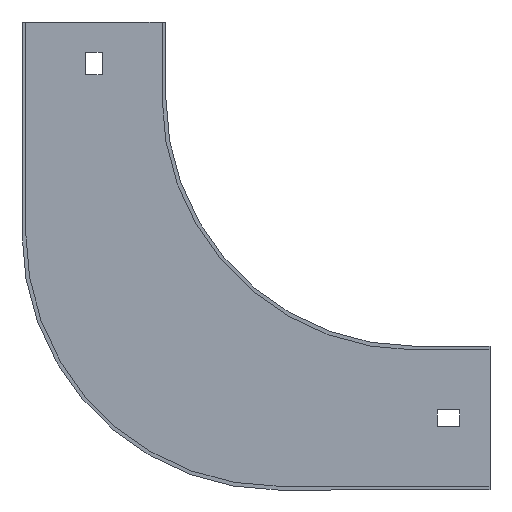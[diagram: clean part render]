
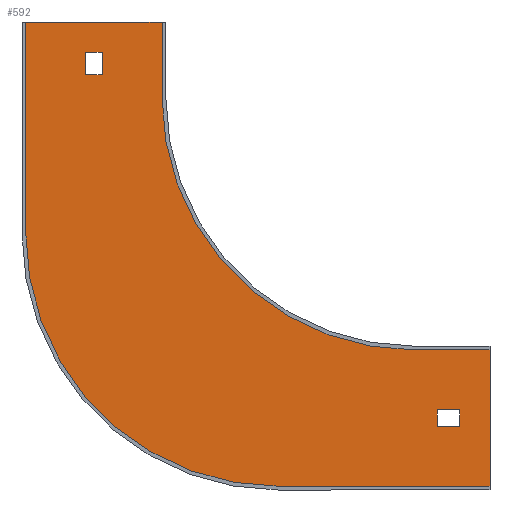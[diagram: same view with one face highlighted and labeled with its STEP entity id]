
A CAD part, front view. The second image highlights one B-rep face of the part: STEP entity #592.
In plain terms, the highlighted planar face has unit normal (0, -1, 0).
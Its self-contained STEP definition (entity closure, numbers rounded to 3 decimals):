
#12 = ORIENTED_EDGE ( 'NONE', *, *, #531, .T. ) ;
#13 = ORIENTED_EDGE ( 'NONE', *, *, #438, .F. ) ;
#22 = CARTESIAN_POINT ( 'NONE',  ( -130.25, -1.5, 9. ) ) ;
#23 = DIRECTION ( 'NONE',  ( 1., 0., 0. ) ) ;
#32 = DIRECTION ( 'NONE',  ( 0., -1., 0. ) ) ;
#38 = LINE ( 'NONE', #722, #184 ) ;
#56 = CARTESIAN_POINT ( 'NONE',  ( -123.75, -1.5, 9. ) ) ;
#59 = VECTOR ( 'NONE', #454, 1000. ) ;
#61 = CARTESIAN_POINT ( 'NONE',  ( 9., -1.5, 0. ) ) ;
#80 = DIRECTION ( 'NONE',  ( 0., -1., 0. ) ) ;
#85 = CARTESIAN_POINT ( 'NONE',  ( 9., -1.5, -130.25 ) ) ;
#88 = VECTOR ( 'NONE', #306, 1000. ) ;
#89 = ORIENTED_EDGE ( 'NONE', *, *, #471, .T. ) ;
#102 = CARTESIAN_POINT ( 'NONE',  ( 18., -1.5, 0. ) ) ;
#106 = VERTEX_POINT ( 'NONE', #243 ) ;
#130 = CARTESIAN_POINT ( 'NONE',  ( 0., -1.5, -100. ) ) ;
#139 = FACE_OUTER_BOUND ( 'NONE', #260, .T. ) ;
#147 = CARTESIAN_POINT ( 'NONE',  ( -54., -1.5, -154. ) ) ;
#149 = EDGE_CURVE ( 'NONE', #601, #652, #530, .T. ) ;
#151 = CARTESIAN_POINT ( 'NONE',  ( 0., -1.5, 0. ) ) ;
#163 = ORIENTED_EDGE ( 'NONE', *, *, #850, .F. ) ;
#169 = CARTESIAN_POINT ( 'NONE',  ( 30., -1.5, -98.5 ) ) ;
#179 = CARTESIAN_POINT ( 'NONE',  ( 9., -1.5, -123.75 ) ) ;
#183 = VERTEX_POINT ( 'NONE', #801 ) ;
#184 = VECTOR ( 'NONE', #327, 1000. ) ;
#188 = ORIENTED_EDGE ( 'NONE', *, *, #393, .F. ) ;
#191 = CIRCLE ( 'NONE', #335, 100. ) ;
#210 = LINE ( 'NONE', #600, #429 ) ;
#212 = VECTOR ( 'NONE', #23, 1000. ) ;
#222 = DIRECTION ( 'NONE',  ( 0., 0., -1. ) ) ;
#231 = VECTOR ( 'NONE', #432, 1000. ) ;
#236 = CARTESIAN_POINT ( 'NONE',  ( 0., -1.5, 9. ) ) ;
#240 = VERTEX_POINT ( 'NONE', #274 ) ;
#243 = CARTESIAN_POINT ( 'NONE',  ( 30., -1.5, -154. ) ) ;
#248 = CARTESIAN_POINT ( 'NONE',  ( -54., -1.5, -54. ) ) ;
#249 = ORIENTED_EDGE ( 'NONE', *, *, #566, .F. ) ;
#250 = CARTESIAN_POINT ( 'NONE',  ( 0., -1.5, -123.75 ) ) ;
#254 = DIRECTION ( 'NONE',  ( -1., 0., 0. ) ) ;
#260 = EDGE_LOOP ( 'NONE', ( #249, #163, #188, #511, #857, #750, #604, #400 ) ) ;
#264 = CARTESIAN_POINT ( 'NONE',  ( -123.75, -1.5, 0. ) ) ;
#267 = DIRECTION ( 'NONE',  ( 0., 0., -1. ) ) ;
#274 = CARTESIAN_POINT ( 'NONE',  ( 30., -1.5, -100. ) ) ;
#278 = CARTESIAN_POINT ( 'NONE',  ( 0., -1.5, 18. ) ) ;
#281 = DIRECTION ( 'NONE',  ( -1., 0., 0. ) ) ;
#288 = VERTEX_POINT ( 'NONE', #718 ) ;
#290 = VERTEX_POINT ( 'NONE', #558 ) ;
#294 = PLANE ( 'NONE',  #302 ) ;
#301 = LINE ( 'NONE', #102, #88 ) ;
#302 = AXIS2_PLACEMENT_3D ( 'NONE', #673, #80, #222 ) ;
#304 = VECTOR ( 'NONE', #736, 1000. ) ;
#305 = LINE ( 'NONE', #169, #59 ) ;
#306 = DIRECTION ( 'NONE',  ( 0., 0., 1. ) ) ;
#309 = VERTEX_POINT ( 'NONE', #179 ) ;
#313 = CARTESIAN_POINT ( 'NONE',  ( -154., -1.5, -54. ) ) ;
#327 = DIRECTION ( 'NONE',  ( 0., 0., -1. ) ) ;
#335 = AXIS2_PLACEMENT_3D ( 'NONE', #151, #32, #726 ) ;
#346 = CARTESIAN_POINT ( 'NONE',  ( -130.25, -1.5, 0. ) ) ;
#350 = LINE ( 'NONE', #684, #595 ) ;
#361 = VERTEX_POINT ( 'NONE', #85 ) ;
#381 = LINE ( 'NONE', #236, #231 ) ;
#384 = DIRECTION ( 'NONE',  ( 0., 0., -1. ) ) ;
#393 = EDGE_CURVE ( 'NONE', #782, #763, #776, .T. ) ;
#400 = ORIENTED_EDGE ( 'NONE', *, *, #818, .F. ) ;
#402 = VERTEX_POINT ( 'NONE', #568 ) ;
#404 = DIRECTION ( 'NONE',  ( 0., 0., 1. ) ) ;
#409 = EDGE_LOOP ( 'NONE', ( #649, #517, #89, #12 ) ) ;
#414 = FACE_BOUND ( 'NONE', #409, .T. ) ;
#415 = ORIENTED_EDGE ( 'NONE', *, *, #533, .F. ) ;
#416 = VECTOR ( 'NONE', #657, 1000. ) ;
#429 = VECTOR ( 'NONE', #687, 1000. ) ;
#430 = LINE ( 'NONE', #278, #212 ) ;
#432 = DIRECTION ( 'NONE',  ( -1., 0., 0. ) ) ;
#438 = EDGE_CURVE ( 'NONE', #849, #402, #301, .T. ) ;
#445 = CARTESIAN_POINT ( 'NONE',  ( 0., -1.5, -130.25 ) ) ;
#454 = DIRECTION ( 'NONE',  ( 0., 0., -1. ) ) ;
#455 = AXIS2_PLACEMENT_3D ( 'NONE', #248, #785, #384 ) ;
#471 = EDGE_CURVE ( 'NONE', #652, #562, #381, .T. ) ;
#482 = CARTESIAN_POINT ( 'NONE',  ( -123.75, -1.5, 18. ) ) ;
#489 = VECTOR ( 'NONE', #267, 1000. ) ;
#508 = CARTESIAN_POINT ( 'NONE',  ( 18., -1.5, -130.25 ) ) ;
#511 = ORIENTED_EDGE ( 'NONE', *, *, #582, .F. ) ;
#517 = ORIENTED_EDGE ( 'NONE', *, *, #149, .T. ) ;
#518 = ORIENTED_EDGE ( 'NONE', *, *, #836, .F. ) ;
#524 = LINE ( 'NONE', #61, #489 ) ;
#530 = LINE ( 'NONE', #264, #304 ) ;
#531 = EDGE_CURVE ( 'NONE', #562, #794, #793, .T. ) ;
#533 = EDGE_CURVE ( 'NONE', #309, #361, #524, .T. ) ;
#539 = FACE_BOUND ( 'NONE', #585, .T. ) ;
#545 = ORIENTED_EDGE ( 'NONE', *, *, #835, .F. ) ;
#558 = CARTESIAN_POINT ( 'NONE',  ( -154., -1.5, 30. ) ) ;
#559 = CARTESIAN_POINT ( 'NONE',  ( -100., -1.5, 0. ) ) ;
#562 = VERTEX_POINT ( 'NONE', #22 ) ;
#566 = EDGE_CURVE ( 'NONE', #290, #288, #210, .T. ) ;
#568 = CARTESIAN_POINT ( 'NONE',  ( 18., -1.5, -123.75 ) ) ;
#577 = VECTOR ( 'NONE', #254, 1000. ) ;
#582 = EDGE_CURVE ( 'NONE', #106, #782, #350, .T. ) ;
#585 = EDGE_LOOP ( 'NONE', ( #545, #13, #518, #415 ) ) ;
#592 = ADVANCED_FACE ( 'NONE', ( #539, #139, #414 ), #294, .T. ) ;
#595 = VECTOR ( 'NONE', #281, 1000. ) ;
#600 = CARTESIAN_POINT ( 'NONE',  ( -155.5, -1.5, 30. ) ) ;
#601 = VERTEX_POINT ( 'NONE', #482 ) ;
#602 = CARTESIAN_POINT ( 'NONE',  ( -130.25, -1.5, 18. ) ) ;
#604 = ORIENTED_EDGE ( 'NONE', *, *, #605, .F. ) ;
#605 = EDGE_CURVE ( 'NONE', #609, #183, #191, .T. ) ;
#609 = VERTEX_POINT ( 'NONE', #559 ) ;
#630 = DIRECTION ( 'NONE',  ( 1., 0., 0. ) ) ;
#634 = VECTOR ( 'NONE', #630, 1000. ) ;
#643 = LINE ( 'NONE', #445, #634 ) ;
#649 = ORIENTED_EDGE ( 'NONE', *, *, #806, .T. ) ;
#652 = VERTEX_POINT ( 'NONE', #56 ) ;
#657 = DIRECTION ( 'NONE',  ( 1., 0., 0. ) ) ;
#673 = CARTESIAN_POINT ( 'NONE',  ( 0., -1.5, 0. ) ) ;
#684 = CARTESIAN_POINT ( 'NONE',  ( 30., -1.5, -154. ) ) ;
#687 = DIRECTION ( 'NONE',  ( 1., 0., 0. ) ) ;
#689 = EDGE_CURVE ( 'NONE', #240, #106, #305, .T. ) ;
#691 = EDGE_CURVE ( 'NONE', #183, #240, #790, .T. ) ;
#694 = CARTESIAN_POINT ( 'NONE',  ( -154., -1.5, -54. ) ) ;
#710 = LINE ( 'NONE', #313, #753 ) ;
#718 = CARTESIAN_POINT ( 'NONE',  ( -100., -1.5, 30. ) ) ;
#722 = CARTESIAN_POINT ( 'NONE',  ( -100., -1.5, 30. ) ) ;
#726 = DIRECTION ( 'NONE',  ( 0., 0., -1. ) ) ;
#736 = DIRECTION ( 'NONE',  ( 0., 0., -1. ) ) ;
#750 = ORIENTED_EDGE ( 'NONE', *, *, #691, .F. ) ;
#753 = VECTOR ( 'NONE', #788, 1000. ) ;
#763 = VERTEX_POINT ( 'NONE', #694 ) ;
#776 = CIRCLE ( 'NONE', #455, 100. ) ;
#782 = VERTEX_POINT ( 'NONE', #147 ) ;
#785 = DIRECTION ( 'NONE',  ( 0., 1., 0. ) ) ;
#788 = DIRECTION ( 'NONE',  ( 0., 0., 1. ) ) ;
#790 = LINE ( 'NONE', #130, #416 ) ;
#793 = LINE ( 'NONE', #346, #846 ) ;
#794 = VERTEX_POINT ( 'NONE', #602 ) ;
#801 = CARTESIAN_POINT ( 'NONE',  ( 0., -1.5, -100. ) ) ;
#806 = EDGE_CURVE ( 'NONE', #794, #601, #430, .T. ) ;
#818 = EDGE_CURVE ( 'NONE', #288, #609, #38, .T. ) ;
#835 = EDGE_CURVE ( 'NONE', #402, #309, #856, .T. ) ;
#836 = EDGE_CURVE ( 'NONE', #361, #849, #643, .T. ) ;
#846 = VECTOR ( 'NONE', #404, 1000. ) ;
#849 = VERTEX_POINT ( 'NONE', #508 ) ;
#850 = EDGE_CURVE ( 'NONE', #763, #290, #710, .T. ) ;
#856 = LINE ( 'NONE', #250, #577 ) ;
#857 = ORIENTED_EDGE ( 'NONE', *, *, #689, .F. ) ;
